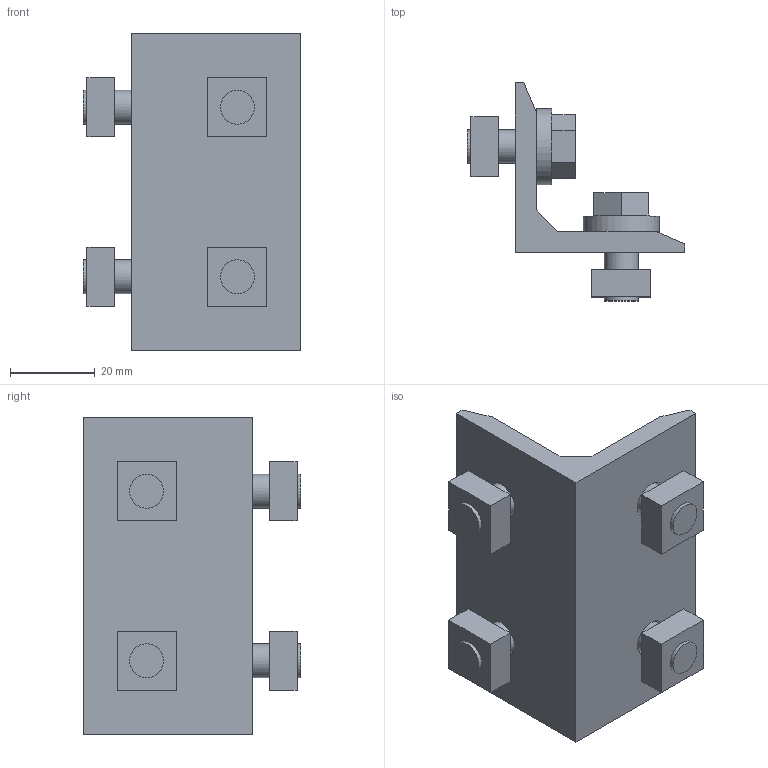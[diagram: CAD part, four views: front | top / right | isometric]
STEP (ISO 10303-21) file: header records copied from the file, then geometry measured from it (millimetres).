
FILE_DESCRIPTION((''),'2;1');
FILE_NAME('C:\Documents and Settings\古川典政\My Documents\Inventor\HP用\MasterData\BRACKET\M8\ABL-4075-8.stp','2008-07-31T10:51:57',(''),(''),'Autodesk Inventor 2008','Autodesk Inventor 2008','');
FILE_SCHEMA(('CONFIG_CONTROL_DESIGN'));
Length unit declared in the file: millimetre
Products named in the file (10): ABL-4075-8; ABL-4075-81; ABL-4075-82; ABL-4075-83; ABL-4075-84; ABL-4075-85; ABL-4075-86; ABL-4075-87; ABL-4075-88; ABL-4075-89
Assembly tree (9 placements, depth 2):
  ABL-4075-8
    ABL-4075-81
    ABL-4075-82
    ABL-4075-83
    ABL-4075-84
    ABL-4075-85
    ABL-4075-86
    ABL-4075-87
    ABL-4075-88
    ABL-4075-89
Bounding box: 51.4 x 51.4 x 75 mm (x, y, z)
Volume: 40112.2 mm3; surface area: 21718.7 mm2
Topology: 9 solids, 9 shells, 99 faces, 219 edges, 150 vertices
Faces by surface type: plane 79, cylinder 12, bspline 8
Full cylindrical faces by diameter (mm): 8 x4, 8.4 x4, 18 x4
Entity records: 2932 total; most frequent: CARTESIAN_POINT 579, DIRECTION 447, ORIENTED_EDGE 374, EDGE_CURVE 187, AXIS2_PLACEMENT_3D 150, EDGE_LOOP 147, VECTOR 147, LINE 147
